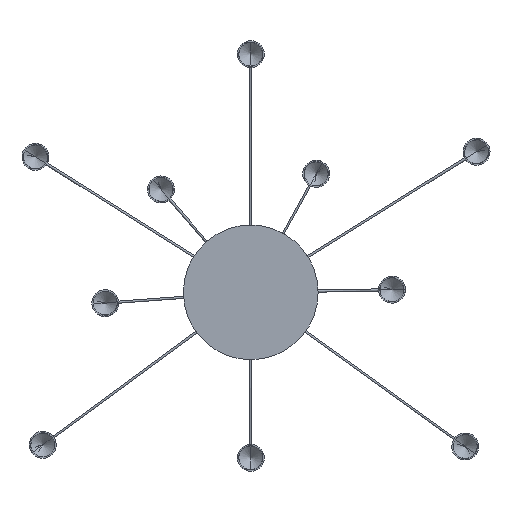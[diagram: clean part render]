
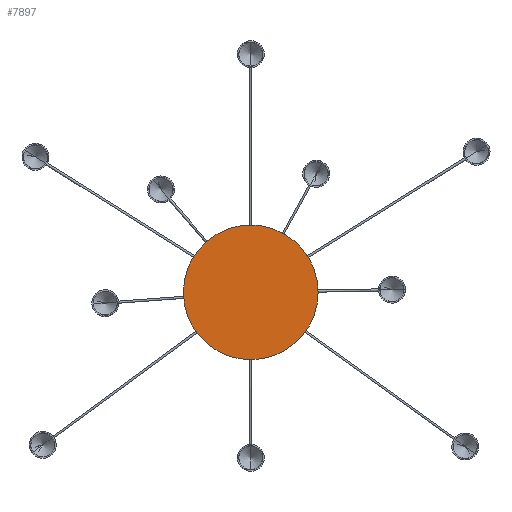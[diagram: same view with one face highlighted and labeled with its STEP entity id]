
A CAD part, front view. The second image highlights one B-rep face of the part: STEP entity #7897.
In plain terms, the highlighted planar face has unit normal (0, -1, 0).
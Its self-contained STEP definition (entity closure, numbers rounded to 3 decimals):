
#246 = DIRECTION ( 'NONE',  ( 0., -1., 0. ) ) ;
#551 = DIRECTION ( 'NONE',  ( 0., 0., -1. ) ) ;
#979 = VERTEX_POINT ( 'NONE', #6987 ) ;
#1160 = EDGE_CURVE ( 'NONE', #979, #4053, #6918, .T. ) ;
#1567 = CIRCLE ( 'NONE', #7697, 125. ) ;
#2554 = DIRECTION ( 'NONE',  ( 0., -1., 0. ) ) ;
#2648 = CARTESIAN_POINT ( 'NONE',  ( 0., -21.5, 0. ) ) ;
#3224 = PLANE ( 'NONE',  #5898 ) ;
#3269 = FACE_OUTER_BOUND ( 'NONE', #6878, .T. ) ;
#3510 = DIRECTION ( 'NONE',  ( 0., 0., -1. ) ) ;
#4053 = VERTEX_POINT ( 'NONE', #6342 ) ;
#4399 = DIRECTION ( 'NONE',  ( 0., 0., -1. ) ) ;
#5798 = ORIENTED_EDGE ( 'NONE', *, *, #1160, .T. ) ;
#5898 = AXIS2_PLACEMENT_3D ( 'NONE', #8673, #2554, #551 ) ;
#6342 = CARTESIAN_POINT ( 'NONE',  ( 0., -21.5, -125. ) ) ;
#6366 = CARTESIAN_POINT ( 'NONE',  ( 0., -21.5, 0. ) ) ;
#6878 = EDGE_LOOP ( 'NONE', ( #7144, #5798 ) ) ;
#6918 = CIRCLE ( 'NONE', #8039, 125. ) ;
#6987 = CARTESIAN_POINT ( 'NONE',  ( 0., -21.5, 125. ) ) ;
#7144 = ORIENTED_EDGE ( 'NONE', *, *, #8139, .T. ) ;
#7697 = AXIS2_PLACEMENT_3D ( 'NONE', #6366, #246, #4399 ) ;
#7897 = ADVANCED_FACE ( 'NONE', ( #3269 ), #3224, .T. ) ;
#8039 = AXIS2_PLACEMENT_3D ( 'NONE', #2648, #8823, #3510 ) ;
#8139 = EDGE_CURVE ( 'NONE', #4053, #979, #1567, .T. ) ;
#8673 = CARTESIAN_POINT ( 'NONE',  ( 125., -21.5, 0. ) ) ;
#8823 = DIRECTION ( 'NONE',  ( 0., -1., 0. ) ) ;
